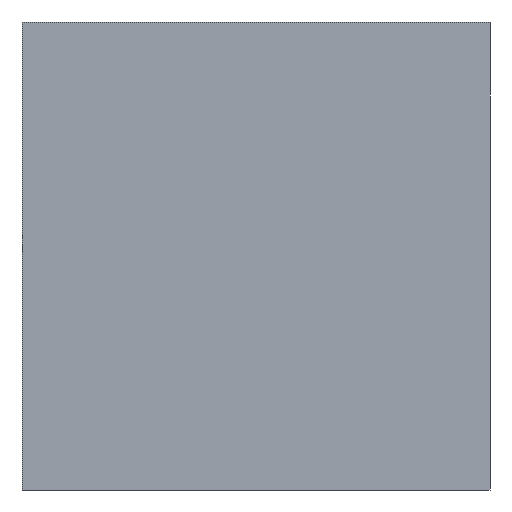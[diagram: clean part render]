
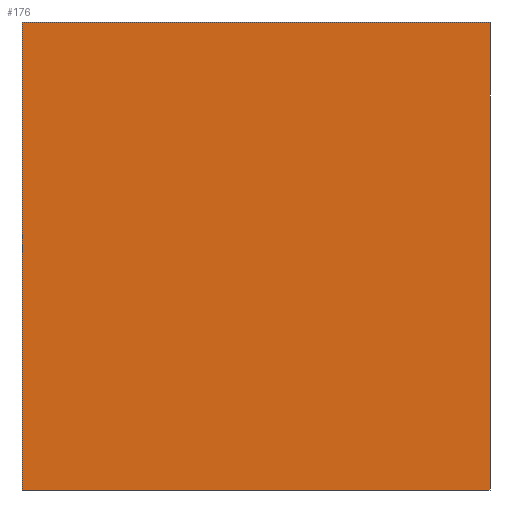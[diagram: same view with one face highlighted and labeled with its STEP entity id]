
A CAD part, left-side view. The second image highlights one B-rep face of the part: STEP entity #176.
In plain terms, the highlighted planar face has unit normal (-1, 0, 0).
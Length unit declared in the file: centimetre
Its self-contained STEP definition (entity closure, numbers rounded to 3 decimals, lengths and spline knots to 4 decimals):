
#3 = ORIENTED_EDGE ( 'NONE', *, *, #97, .T. ) ;
#12 = CARTESIAN_POINT ( 'NONE',  ( 0., 0., 1000. ) ) ;
#33 = EDGE_CURVE ( 'NONE', #80, #86, #380, .T. ) ;
#47 = EDGE_LOOP ( 'NONE', ( #305, #165, #233, #3 ) ) ;
#63 = CARTESIAN_POINT ( 'NONE',  ( 0., 1000., 1000. ) ) ;
#66 = DIRECTION ( 'NONE',  ( 0., -1., 0. ) ) ;
#69 = AXIS2_PLACEMENT_3D ( 'NONE', #193, #313, #316 ) ;
#71 = VERTEX_POINT ( 'NONE', #385 ) ;
#80 = VERTEX_POINT ( 'NONE', #347 ) ;
#83 = EDGE_CURVE ( 'NONE', #86, #93, #248, .T. ) ;
#86 = VERTEX_POINT ( 'NONE', #12 ) ;
#93 = VERTEX_POINT ( 'NONE', #194 ) ;
#97 = EDGE_CURVE ( 'NONE', #80, #71, #349, .T. ) ;
#105 = FACE_OUTER_BOUND ( 'NONE', #47, .T. ) ;
#126 = CARTESIAN_POINT ( 'NONE',  ( 0., 0., 1000. ) ) ;
#130 = LINE ( 'NONE', #221, #371 ) ;
#165 = ORIENTED_EDGE ( 'NONE', *, *, #83, .F. ) ;
#169 = EDGE_CURVE ( 'NONE', #71, #93, #130, .T. ) ;
#176 = ADVANCED_FACE ( 'NONE', ( #105 ), #286, .F. ) ;
#185 = VECTOR ( 'NONE', #224, 100. ) ;
#193 = CARTESIAN_POINT ( 'NONE',  ( 0., 1000., 1000. ) ) ;
#194 = CARTESIAN_POINT ( 'NONE',  ( 0., 0., 0. ) ) ;
#221 = CARTESIAN_POINT ( 'NONE',  ( 0., 1000., 0. ) ) ;
#224 = DIRECTION ( 'NONE',  ( 0., 0., -1. ) ) ;
#232 = VECTOR ( 'NONE', #314, 100. ) ;
#233 = ORIENTED_EDGE ( 'NONE', *, *, #33, .F. ) ;
#248 = LINE ( 'NONE', #126, #185 ) ;
#249 = CARTESIAN_POINT ( 'NONE',  ( 0., 1000., 1000. ) ) ;
#273 = VECTOR ( 'NONE', #282, 100. ) ;
#282 = DIRECTION ( 'NONE',  ( 0., -1., 0. ) ) ;
#286 = PLANE ( 'NONE',  #69 ) ;
#305 = ORIENTED_EDGE ( 'NONE', *, *, #169, .T. ) ;
#313 = DIRECTION ( 'NONE',  ( 1., 0., 0. ) ) ;
#314 = DIRECTION ( 'NONE',  ( 0., 0., -1. ) ) ;
#316 = DIRECTION ( 'NONE',  ( 0., 0., -1. ) ) ;
#347 = CARTESIAN_POINT ( 'NONE',  ( 0., 1000., 1000. ) ) ;
#349 = LINE ( 'NONE', #249, #232 ) ;
#371 = VECTOR ( 'NONE', #66, 100. ) ;
#380 = LINE ( 'NONE', #63, #273 ) ;
#385 = CARTESIAN_POINT ( 'NONE',  ( 0., 1000., 0. ) ) ;
